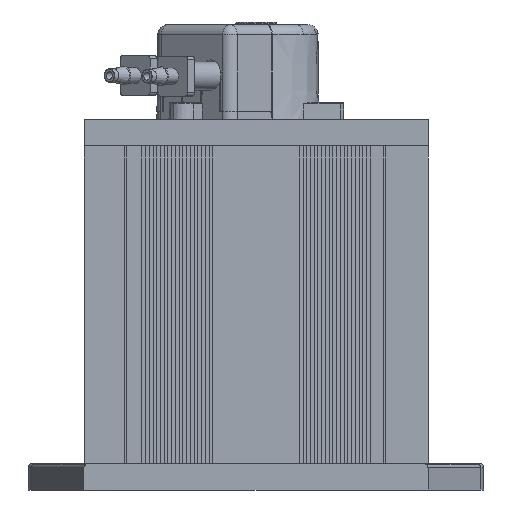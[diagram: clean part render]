
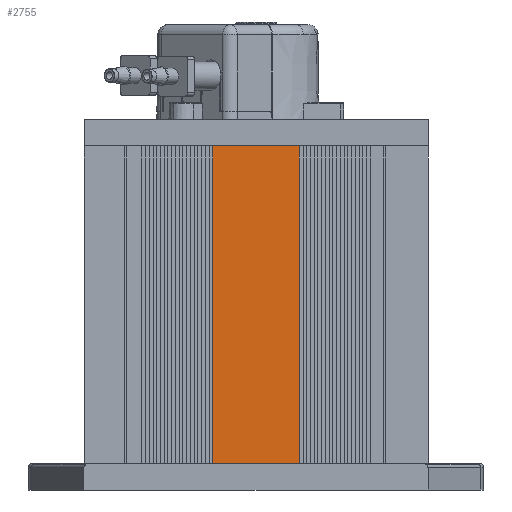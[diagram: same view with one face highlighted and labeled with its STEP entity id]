
A CAD part, left-side view. The second image highlights one B-rep face of the part: STEP entity #2755.
In plain terms, the highlighted planar face has unit normal (-1, 0, 0).
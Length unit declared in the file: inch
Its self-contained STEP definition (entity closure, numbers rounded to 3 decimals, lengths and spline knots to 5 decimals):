
#2755=ADVANCED_FACE('',(#7459),#7460,.T.);
#7459=FACE_OUTER_BOUND('',#14311,.T.);
#7460=PLANE('',#14312);
#14311=EDGE_LOOP('',(#24904,#24905,#24906,#24907));
#14312=AXIS2_PLACEMENT_3D('',#24908,#24909,#24910);
#24904=ORIENTED_EDGE('',*,*,#44084,.T.);
#24905=ORIENTED_EDGE('',*,*,#44315,.F.);
#24906=ORIENTED_EDGE('',*,*,#44192,.F.);
#24907=ORIENTED_EDGE('',*,*,#44313,.T.);
#24908=CARTESIAN_POINT('',(-12.05419,8.69862,1.61092));
#24909=DIRECTION('',(-1.0,0.,-0.0));
#24910=DIRECTION('',(0.,1.0,0.0));
#44084=EDGE_CURVE('',#52706,#52704,#52707,.T.);
#44192=EDGE_CURVE('',#52906,#52908,#52909,.T.);
#44313=EDGE_CURVE('',#52906,#52706,#53072,.T.);
#44315=EDGE_CURVE('',#52908,#52704,#53074,.T.);
#52704=VERTEX_POINT('',#65339);
#52706=VERTEX_POINT('',#65342);
#52707=LINE('',#65343,#65344);
#52906=VERTEX_POINT('',#65644);
#52908=VERTEX_POINT('',#65647);
#52909=LINE('',#65648,#65649);
#53072=LINE('',#65894,#65895);
#53074=LINE('',#65897,#65898);
#65339=CARTESIAN_POINT('',(-12.05419,8.29055,-1.38908));
#65342=CARTESIAN_POINT('',(-12.05419,9.10669,-1.38908));
#65343=CARTESIAN_POINT('',(-12.05419,8.50342,-1.38908));
#65344=VECTOR('',#84987,1.0);
#65644=CARTESIAN_POINT('',(-12.05419,9.10669,1.61092));
#65647=CARTESIAN_POINT('',(-12.05419,8.29055,1.61092));
#65648=CARTESIAN_POINT('',(-12.05419,8.50342,1.61092));
#65649=VECTOR('',#85090,1.0);
#65894=CARTESIAN_POINT('',(-12.05419,9.10669,1.61092));
#65895=VECTOR('',#85173,1.0);
#65897=CARTESIAN_POINT('',(-12.05419,8.29055,1.61092));
#65898=VECTOR('',#85174,1.0);
#84987=DIRECTION('',(0.,-1.0,0.0));
#85090=DIRECTION('',(0.,-1.0,0.0));
#85173=DIRECTION('',(0.0,0.0,-1.0));
#85174=DIRECTION('',(0.0,0.0,-1.0));
